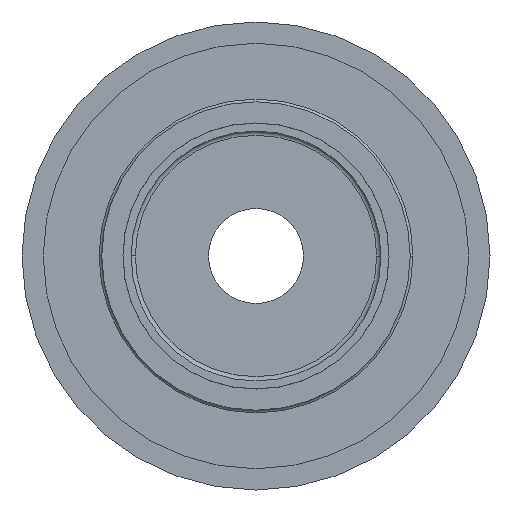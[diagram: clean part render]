
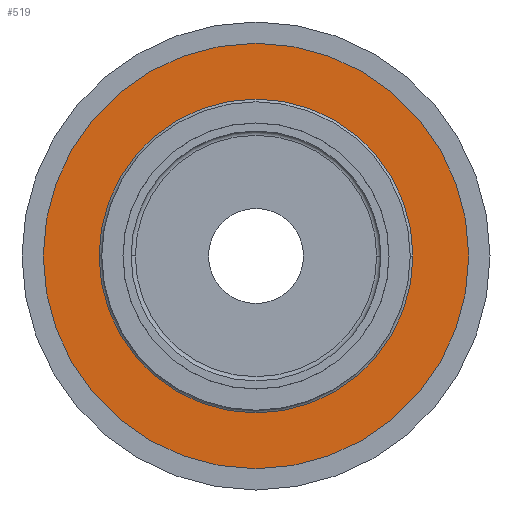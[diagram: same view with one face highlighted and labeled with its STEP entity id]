
A CAD part, front view. The second image highlights one B-rep face of the part: STEP entity #519.
In plain terms, the highlighted planar face has unit normal (0, -1, 0).
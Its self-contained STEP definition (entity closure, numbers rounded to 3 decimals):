
#453 = VERTEX_POINT ( 'NONE', #856 ) ;
#466 = VERTEX_POINT ( 'NONE', #1116 ) ;
#470 = VERTEX_POINT ( 'NONE', #1077 ) ;
#471 = EDGE_CURVE ( 'NONE', #470, #466, #1094, .T. ) ;
#516 = EDGE_CURVE ( 'NONE', #466, #470, #1009, .T. ) ;
#519 = ADVANCED_FACE ( 'NONE', ( #1065, #1061 ), #1060, .T. ) ;
#520 = ORIENTED_EDGE ( 'NONE', *, *, #516, .T. ) ;
#522 = EDGE_LOOP ( 'NONE', ( #520, #535 ) ) ;
#525 = EDGE_CURVE ( 'NONE', #453, #549, #1050, .T. ) ;
#528 = ORIENTED_EDGE ( 'NONE', *, *, #525, .F. ) ;
#535 = ORIENTED_EDGE ( 'NONE', *, *, #471, .T. ) ;
#536 = ORIENTED_EDGE ( 'NONE', *, *, #541, .F. ) ;
#537 = EDGE_LOOP ( 'NONE', ( #536, #528 ) ) ;
#541 = EDGE_CURVE ( 'NONE', #549, #453, #1125, .T. ) ;
#549 = VERTEX_POINT ( 'NONE', #1163 ) ;
#856 = CARTESIAN_POINT ( 'NONE',  ( 0., -39., -40. ) ) ;
#1009 = CIRCLE ( 'NONE', #1072, 29.5 ) ;
#1046 = DIRECTION ( 'NONE',  ( 0., 0., 1. ) ) ;
#1047 = DIRECTION ( 'NONE',  ( 0., 1., 0. ) ) ;
#1048 = CARTESIAN_POINT ( 'NONE',  ( 0., -39., 0. ) ) ;
#1049 = AXIS2_PLACEMENT_3D ( 'NONE', #1048, #1047, #1046 ) ;
#1050 = CIRCLE ( 'NONE', #1049, 40. ) ;
#1055 = DIRECTION ( 'NONE',  ( 0., 0., -1. ) ) ;
#1056 = DIRECTION ( 'NONE',  ( 0., -1., 0. ) ) ;
#1057 = CARTESIAN_POINT ( 'NONE',  ( -40., -39., 0. ) ) ;
#1059 = AXIS2_PLACEMENT_3D ( 'NONE', #1057, #1056, #1055 ) ;
#1060 = PLANE ( 'NONE',  #1059 ) ;
#1061 = FACE_OUTER_BOUND ( 'NONE', #537, .T. ) ;
#1065 = FACE_BOUND ( 'NONE', #522, .T. ) ;
#1069 = DIRECTION ( 'NONE',  ( 0., 0., 1. ) ) ;
#1070 = DIRECTION ( 'NONE',  ( 0., 1., 0. ) ) ;
#1071 = CARTESIAN_POINT ( 'NONE',  ( 0., -39., 0. ) ) ;
#1072 = AXIS2_PLACEMENT_3D ( 'NONE', #1071, #1070, #1069 ) ;
#1073 = DIRECTION ( 'NONE',  ( 0., 0., 1. ) ) ;
#1074 = DIRECTION ( 'NONE',  ( 0., 1., 0. ) ) ;
#1075 = CARTESIAN_POINT ( 'NONE',  ( 0., -39., 0. ) ) ;
#1076 = AXIS2_PLACEMENT_3D ( 'NONE', #1075, #1074, #1073 ) ;
#1077 = CARTESIAN_POINT ( 'NONE',  ( 0., -39., -29.5 ) ) ;
#1094 = CIRCLE ( 'NONE', #1076, 29.5 ) ;
#1116 = CARTESIAN_POINT ( 'NONE',  ( 0., -39., 29.5 ) ) ;
#1122 = AXIS2_PLACEMENT_3D ( 'NONE', #1142, #1141, #1150 ) ;
#1125 = CIRCLE ( 'NONE', #1122, 40. ) ;
#1141 = DIRECTION ( 'NONE',  ( 0., 1., 0. ) ) ;
#1142 = CARTESIAN_POINT ( 'NONE',  ( 0., -39., 0. ) ) ;
#1150 = DIRECTION ( 'NONE',  ( 0., 0., 1. ) ) ;
#1163 = CARTESIAN_POINT ( 'NONE',  ( 0., -39., 40. ) ) ;
